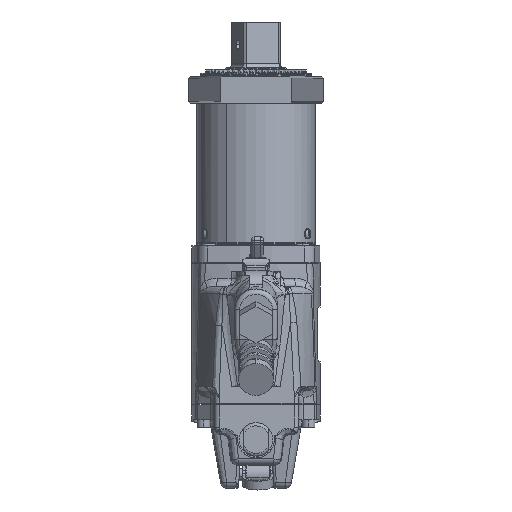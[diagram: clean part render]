
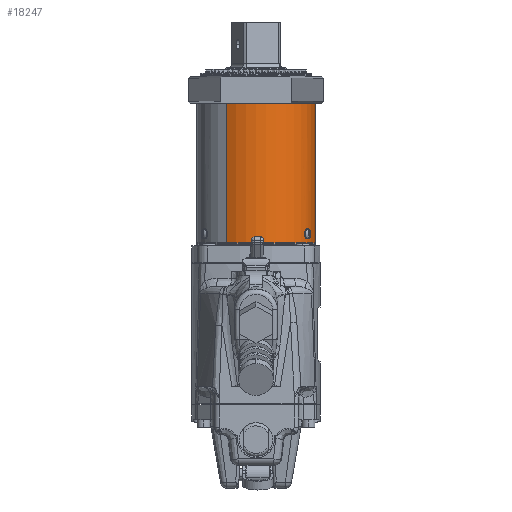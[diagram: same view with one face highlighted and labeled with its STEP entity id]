
A CAD part, front view. The second image highlights one B-rep face of the part: STEP entity #18247.
In plain terms, the highlighted cylindrical face has radius 38.735 mm (diameter 77.47 mm), a partial arc.
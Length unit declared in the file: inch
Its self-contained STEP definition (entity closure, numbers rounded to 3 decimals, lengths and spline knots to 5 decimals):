
#1012 = FACE_BOUND ( 'NONE', #67716, .T. ) ;
#2275 = CARTESIAN_POINT ( 'NONE',  ( 1.27996, -0.82905, -3.40468 ) ) ;
#2658 = CARTESIAN_POINT ( 'NONE',  ( 1.31044, -0.78, -3.33424 ) ) ;
#2764 = VECTOR ( 'NONE', #50818, 39.37008 ) ;
#3798 = CARTESIAN_POINT ( 'NONE',  ( 1.35613, -0.69753, -3.38451 ) ) ;
#4207 = CARTESIAN_POINT ( 'NONE',  ( 1.34389, -0.72084, -3.47167 ) ) ;
#5690 = DIRECTION ( 'NONE',  ( -0.5, -0.866, 0. ) ) ;
#8716 = VERTEX_POINT ( 'NONE', #65216 ) ;
#10095 = VERTEX_POINT ( 'NONE', #92974 ) ;
#11063 = CARTESIAN_POINT ( 'NONE',  ( 1.31556, -0.77134, -3.48722 ) ) ;
#11467 = CARTESIAN_POINT ( 'NONE',  ( 1.28132, -0.82696, -3.38951 ) ) ;
#11873 = CARTESIAN_POINT ( 'NONE',  ( 1.31813, -0.76693, -3.33173 ) ) ;
#12621 = CARTESIAN_POINT ( 'NONE',  ( 1.32067, -0.76252, -3.33173 ) ) ;
#13012 = CARTESIAN_POINT ( 'NONE',  ( 1.35773, -0.69441, -3.39944 ) ) ;
#13406 = CARTESIAN_POINT ( 'NONE',  ( 1.33767, -0.73232, -3.47981 ) ) ;
#13490 = AXIS2_PLACEMENT_3D ( 'NONE', #114317, #60186, #5690 ) ;
#15629 = CARTESIAN_POINT ( 'NONE',  ( -0.7625, -1.32069, -3.63973 ) ) ;
#18247 = ADVANCED_FACE ( 'NONE', ( #67960, #1012 ), #32256, .T. ) ;
#20218 = CARTESIAN_POINT ( 'NONE',  ( 1.30794, -0.78418, -3.48374 ) ) ;
#20596 = CARTESIAN_POINT ( 'NONE',  ( 1.28423, -0.82243, -3.3752 ) ) ;
#21125 = CARTESIAN_POINT ( 'NONE',  ( 1.32069, -0.7625, -3.48773 ) ) ;
#22092 = CARTESIAN_POINT ( 'NONE',  ( 1.35796, -0.69395, -3.4148 ) ) ;
#22496 = CARTESIAN_POINT ( 'NONE',  ( 1.32584, -0.75357, -3.48773 ) ) ;
#28424 = DIRECTION ( 'NONE',  ( 0., 0., 1. ) ) ;
#29333 = CARTESIAN_POINT ( 'NONE',  ( 1.30072, -0.79609, -3.47743 ) ) ;
#29720 = CARTESIAN_POINT ( 'NONE',  ( 1.28858, -0.8156, -3.36218 ) ) ;
#30518 = DIRECTION ( 'NONE',  ( 0.5, 0.866, 0. ) ) ;
#30827 = CARTESIAN_POINT ( 'NONE',  ( 1.3308, -0.74477, -3.33377 ) ) ;
#31221 = CARTESIAN_POINT ( 'NONE',  ( 1.35683, -0.69615, -3.42985 ) ) ;
#32256 = CYLINDRICAL_SURFACE ( 'NONE', #58374, 1.525 ) ;
#33241 = DIRECTION ( 'NONE',  ( 0., 0., 1. ) ) ;
#38135 = CARTESIAN_POINT ( 'NONE',  ( 0.7625, 1.32069, -3.63973 ) ) ;
#38446 = CARTESIAN_POINT ( 'NONE',  ( 1.29416, -0.80672, -3.46848 ) ) ;
#38832 = CARTESIAN_POINT ( 'NONE',  ( 1.29417, -0.8067, -3.35096 ) ) ;
#39249 = CARTESIAN_POINT ( 'NONE',  ( 0., 0., -3.63973 ) ) ;
#39964 = CARTESIAN_POINT ( 'NONE',  ( 1.344, -0.72065, -3.34734 ) ) ;
#40079 = CARTESIAN_POINT ( 'NONE',  ( 0.7625, 1.32069, 0.04777 ) ) ;
#40360 = CARTESIAN_POINT ( 'NONE',  ( 1.35436, -0.70096, -3.44426 ) ) ;
#47411 = LINE ( 'NONE', #83035, #95769 ) ;
#47636 = CARTESIAN_POINT ( 'NONE',  ( 1.28529, -0.82077, -3.44898 ) ) ;
#48025 = CARTESIAN_POINT ( 'NONE',  ( 1.30068, -0.79616, -3.34208 ) ) ;
#48315 = ORIENTED_EDGE ( 'NONE', *, *, #49262, .T. ) ;
#48589 = EDGE_CURVE ( 'NONE', #10095, #61582, #97692, .T. ) ;
#49161 = CARTESIAN_POINT ( 'NONE',  ( 1.3506, -0.70818, -3.36212 ) ) ;
#49262 = EDGE_CURVE ( 'NONE', #61582, #10095, #92648, .T. ) ;
#49550 = EDGE_LOOP ( 'NONE', ( #94530, #93822, #92928, #91449 ) ) ;
#49565 = CARTESIAN_POINT ( 'NONE',  ( 1.35064, -0.7081, -3.45722 ) ) ;
#50179 = EDGE_CURVE ( 'NONE', #65982, #8716, #86126, .T. ) ;
#50323 = EDGE_CURVE ( 'NONE', #102500, #73861, #50490, .T. ) ;
#50490 = CIRCLE ( 'NONE', #82901, 1.525 ) ;
#50818 = DIRECTION ( 'NONE',  ( 0., 0., 1. ) ) ;
#50845 = EDGE_CURVE ( 'NONE', #102500, #65982, #47411, .T. ) ;
#51794 = CARTESIAN_POINT ( 'NONE',  ( 0., 0., -3.63973 ) ) ;
#52255 = EDGE_CURVE ( 'NONE', #73861, #8716, #99495, .T. ) ;
#56414 = CARTESIAN_POINT ( 'NONE',  ( 1.32069, -0.7625, -3.48773 ) ) ;
#56806 = CARTESIAN_POINT ( 'NONE',  ( 1.27996, -0.82905, -3.41995 ) ) ;
#57194 = CARTESIAN_POINT ( 'NONE',  ( 1.30794, -0.78418, -3.33572 ) ) ;
#57957 = CARTESIAN_POINT ( 'NONE',  ( 1.32577, -0.75371, -3.33172 ) ) ;
#58342 = CARTESIAN_POINT ( 'NONE',  ( 1.35433, -0.70102, -3.37508 ) ) ;
#58374 = AXIS2_PLACEMENT_3D ( 'NONE', #39249, #33241, #30518 ) ;
#58749 = CARTESIAN_POINT ( 'NONE',  ( 1.34574, -0.71738, -3.46844 ) ) ;
#60186 = DIRECTION ( 'NONE',  ( 0., 0., -1. ) ) ;
#60930 = DIRECTION ( 'NONE',  ( -0.5, -0.866, 0. ) ) ;
#61582 = VERTEX_POINT ( 'NONE', #21125 ) ;
#65216 = CARTESIAN_POINT ( 'NONE',  ( -0.7625, -1.32069, 0.04777 ) ) ;
#65982 = VERTEX_POINT ( 'NONE', #40079 ) ;
#66000 = CARTESIAN_POINT ( 'NONE',  ( 1.28023, -0.82863, -3.39951 ) ) ;
#66389 = CARTESIAN_POINT ( 'NONE',  ( 1.31552, -0.7714, -3.33224 ) ) ;
#67526 = CARTESIAN_POINT ( 'NONE',  ( 1.35682, -0.69619, -3.38947 ) ) ;
#67716 = EDGE_LOOP ( 'NONE', ( #48315, #88053 ) ) ;
#67919 = CARTESIAN_POINT ( 'NONE',  ( 1.33984, -0.72833, -3.47737 ) ) ;
#67960 = FACE_OUTER_BOUND ( 'NONE', #49550, .T. ) ;
#73861 = VERTEX_POINT ( 'NONE', #15629 ) ;
#74779 = CARTESIAN_POINT ( 'NONE',  ( 1.31048, -0.77992, -3.48524 ) ) ;
#75183 = CARTESIAN_POINT ( 'NONE',  ( 1.28212, -0.82572, -3.38465 ) ) ;
#75577 = CARTESIAN_POINT ( 'NONE',  ( 1.32067, -0.76252, -3.33173 ) ) ;
#76718 = CARTESIAN_POINT ( 'NONE',  ( 1.35796, -0.69396, -3.4045 ) ) ;
#77123 = CARTESIAN_POINT ( 'NONE',  ( 1.33087, -0.74465, -3.48566 ) ) ;
#82901 = AXIS2_PLACEMENT_3D ( 'NONE', #51794, #115067, #60930 ) ;
#83035 = CARTESIAN_POINT ( 'NONE',  ( 0.7625, 1.32069, -3.63973 ) ) ;
#83917 = CARTESIAN_POINT ( 'NONE',  ( 1.30306, -0.79226, -3.47983 ) ) ;
#84306 = CARTESIAN_POINT ( 'NONE',  ( 1.28555, -0.82037, -3.37064 ) ) ;
#85812 = CARTESIAN_POINT ( 'NONE',  ( 1.35773, -0.6944, -3.41988 ) ) ;
#86126 = CIRCLE ( 'NONE', #13490, 1.525 ) ;
#86195 = CARTESIAN_POINT ( 'NONE',  ( 1.32069, -0.7625, -3.48773 ) ) ;
#88053 = ORIENTED_EDGE ( 'NONE', *, *, #48589, .T. ) ;
#91449 = ORIENTED_EDGE ( 'NONE', *, *, #50179, .T. ) ;
#91545 = CARTESIAN_POINT ( 'NONE',  ( 1.31811, -0.76696, -3.48773 ) ) ;
#92648 = B_SPLINE_CURVE_WITH_KNOTS ( 'NONE', 3,
 ( #56414, #91545, #11063, #74779, #20218, #83917, #29333, #92963, #38446, #101996, #47636, #111006, #56806, #2275, #66000, #11467, #75183, #20596, #84306, #29720, #93343, #38832, #102384, #48025, #111403, #57194, #2658, #66389, #11873, #75577 ),
 .UNSPECIFIED., .F., .F.,
 ( 4, 2, 2, 2, 2, 2, 2, 2, 2, 2, 2, 2, 2, 2, 4 ),
 ( 0., 0.00039, 0.00077, 0.00116, 0.00155, 0.00232, 0.0031, 0.00348, 0.00387, 0.00426, 0.00465, 0.00503, 0.00542, 0.00581, 0.00619 ),
 .UNSPECIFIED. ) ;
#92928 = ORIENTED_EDGE ( 'NONE', *, *, #50845, .T. ) ;
#92963 = CARTESIAN_POINT ( 'NONE',  ( 1.29628, -0.80331, -3.47177 ) ) ;
#92974 = CARTESIAN_POINT ( 'NONE',  ( 1.32067, -0.76252, -3.33173 ) ) ;
#93343 = CARTESIAN_POINT ( 'NONE',  ( 1.2903, -0.81287, -3.35824 ) ) ;
#93822 = ORIENTED_EDGE ( 'NONE', *, *, #50323, .F. ) ;
#94486 = CARTESIAN_POINT ( 'NONE',  ( 1.33987, -0.72832, -3.34153 ) ) ;
#94530 = ORIENTED_EDGE ( 'NONE', *, *, #52255, .F. ) ;
#94872 = CARTESIAN_POINT ( 'NONE',  ( 1.35615, -0.69748, -3.4348 ) ) ;
#95769 = VECTOR ( 'NONE', #28424, 39.37008 ) ;
#97692 = B_SPLINE_CURVE_WITH_KNOTS ( 'NONE', 3,
 ( #12621, #57957, #30827, #94486, #39964, #103494, #49161, #112522, #58342, #3798, #67526, #13012, #76718, #22092, #85812, #31221, #94872, #40360, #103889, #49565, #112899, #58749, #4207, #67919, #13406, #77123, #22496, #86195 ),
 .UNSPECIFIED., .F., .F.,
 ( 4, 2, 2, 2, 2, 2, 2, 2, 2, 2, 2, 2, 2, 4 ),
 ( 0.00619, 0.00697, 0.00774, 0.00813, 0.00852, 0.0089, 0.00929, 0.00968, 0.01007, 0.01045, 0.01084, 0.01123, 0.01161, 0.01239 ),
 .UNSPECIFIED. ) ;
#99495 = LINE ( 'NONE', #105125, #2764 ) ;
#101996 = CARTESIAN_POINT ( 'NONE',  ( 1.28842, -0.81587, -3.45768 ) ) ;
#102384 = CARTESIAN_POINT ( 'NONE',  ( 1.29625, -0.80335, -3.34773 ) ) ;
#102500 = VERTEX_POINT ( 'NONE', #38135 ) ;
#103494 = CARTESIAN_POINT ( 'NONE',  ( 1.34906, -0.7111, -3.35811 ) ) ;
#103889 = CARTESIAN_POINT ( 'NONE',  ( 1.35325, -0.70309, -3.44874 ) ) ;
#105125 = CARTESIAN_POINT ( 'NONE',  ( -0.7625, -1.32069, -3.63973 ) ) ;
#111006 = CARTESIAN_POINT ( 'NONE',  ( 1.28108, -0.82733, -3.43021 ) ) ;
#111403 = CARTESIAN_POINT ( 'NONE',  ( 1.30306, -0.79227, -3.33963 ) ) ;
#112522 = CARTESIAN_POINT ( 'NONE',  ( 1.35322, -0.70315, -3.3706 ) ) ;
#112899 = CARTESIAN_POINT ( 'NONE',  ( 1.34911, -0.71102, -3.46124 ) ) ;
#114317 = CARTESIAN_POINT ( 'NONE',  ( 0., 0., 0.04777 ) ) ;
#115067 = DIRECTION ( 'NONE',  ( 0., 0., -1. ) ) ;
